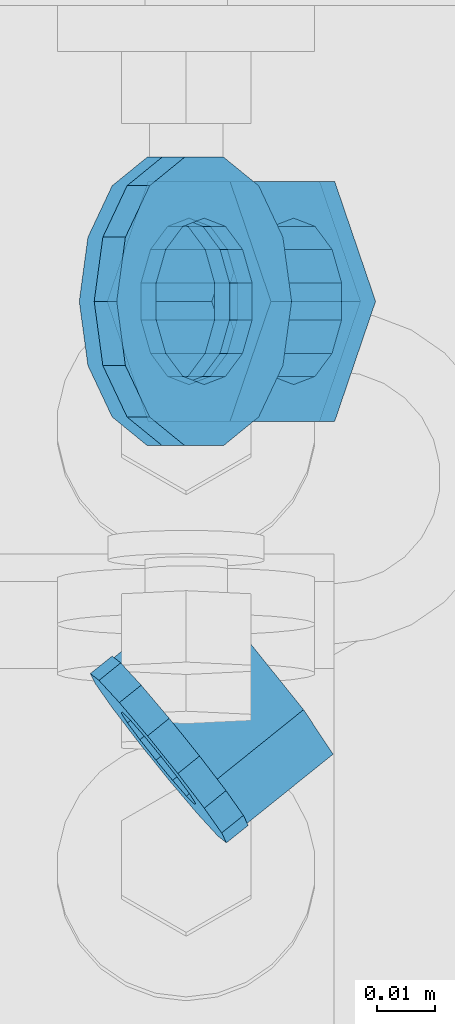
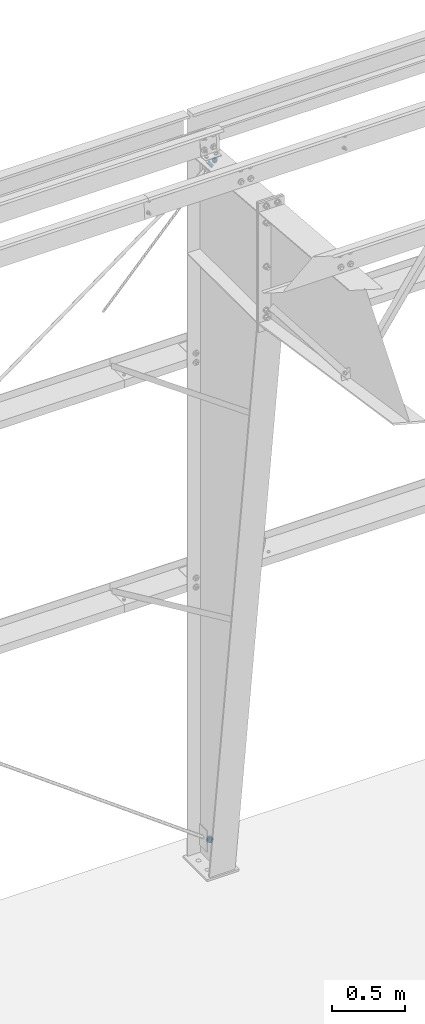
# One storey, part 39 of 185: 4 members, 2 beams, 6 elements without a shape of their own.
"""IFC2X3 building model written with IfcOpenShell, lengths in millimetres."""

from ifc_helpers import new_model, si_unit, frame, origin_with_axes, place, context, subcontext, project, spatial, polyline, outline, extrude, material, type_object, element, aggregate, save


model = new_model("IFC2X3")

# Units and contexts
model_context = context("Model", 3, precision=1e-05, world=origin_with_axes())
body_context = subcontext(model_context, "Body", "Model", "MODEL_VIEW")
ifc_project = project(units=[si_unit("LENGTHUNIT", "METRE", prefix="MILLI"), si_unit("AREAUNIT", "SQUARE_METRE"), si_unit("VOLUMEUNIT", "CUBIC_METRE"), si_unit("MASSUNIT", "GRAM", prefix="KILO"), si_unit("TIMEUNIT", "SECOND"), si_unit("PLANEANGLEUNIT", "RADIAN"), si_unit("SOLIDANGLEUNIT", "STERADIAN"), si_unit("THERMODYNAMICTEMPERATUREUNIT", "DEGREE_CELSIUS"), si_unit("LUMINOUSINTENSITYUNIT", "LUMEN")], contexts=[model_context])

# Site, building, storey
site_placement = place(None, origin_with_axes())
site = spatial("IfcSite", under=ifc_project, at=site_placement, Name="Undefined", CompositionType="ELEMENT")
building_placement = place(site_placement, origin_with_axes())
building = spatial("IfcBuilding", under=site, at=building_placement, Name="Undefined", CompositionType="ELEMENT")
storey_placement = place(building_placement, origin_with_axes())
storey = spatial("IfcBuildingStorey", under=building, at=storey_placement, Name="Undefined", CompositionType="ELEMENT", Elevation=0.0)

# Assembly, member
assembly_1_placement = place(storey_placement, origin_with_axes())
assembly_1 = element("IfcElementAssembly", 1, at=assembly_1_placement, inside=storey, Name="Steel Assembly", AssemblyPlace="NOTDEFINED", PredefinedType="RIGID_FRAME")
ifc_material = material(Name="STEEL/55")
member_type_1 = type_object("IfcMemberType", Name="1_HEAVY_HEX_NUT", PredefinedType="NOTDEFINED")
member_1_placement = place(assembly_1_placement, frame((14897.6197651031, 31742.1260000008, 140.133583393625), z_axis=(8.1869000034e-05, 0.999999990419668, 0.00011161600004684), x_axis=(0.806747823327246, 0.0, -0.590895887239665)))
member_1 = element("IfcMember", 2, at=member_1_placement, type_object=member_type_1, material=ifc_material, Name="1 H HEX NUT A563", ObjectType="1_HEAVY_HEX_NUT", context=body_context, shape_type="SweptSolid", body=[
    extrude(outline(polyline([(-11.909999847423, 20.620000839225), (11.9099998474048, 20.6200008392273), (23.8099994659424, -4.9453774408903e-12), (11.9099998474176, -20.6200008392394), (-11.9099998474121, -20.6200008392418), (-23.8099994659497, -9.49285094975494e-12), (-11.909999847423, 20.620000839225)]), holes=[polyline([(11.1723718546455, -8.90966924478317), (13.9317198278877, -3.17982413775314), (13.9317198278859, 3.17982413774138), (11.17237185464, 8.9096692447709), (6.20019861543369, 12.8748450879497), (-5.45696821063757e-12, 14.2899999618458), (-6.20019861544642, 12.8748450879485), (-11.1723718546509, 8.90966924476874), (-13.931719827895, 3.17982413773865), (-13.9317198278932, -3.17982413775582), (-11.1723718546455, -8.90966924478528), (-6.20019861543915, -12.8748450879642), (0.0, -14.2899999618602), (6.20019861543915, -12.874845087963), (11.1723718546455, -8.90966924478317)])]), frame((19.0500000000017, 0.0, 2.58175642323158e-19), z_axis=(-1.0, 0.0, 0.0), x_axis=(0.0, -1.0, 0.0)), (0.0, 0.0, 1.0), 19.1),
])
aggregate(assembly_1, [member_1])

assembly_2_placement = place(storey_placement, origin_with_axes())
assembly_2 = element("IfcElementAssembly", 3, at=assembly_2_placement, inside=storey, Name="Steel Assembly", AssemblyPlace="NOTDEFINED", PredefinedType="RIGID_FRAME")
member_2_placement = place(assembly_2_placement, frame((14900.1811885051, 31742.1260000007, 5779.49958721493), z_axis=(8.17930000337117e-05, -0.999999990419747, -0.000111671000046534), x_axis=(0.806747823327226, 0.0, 0.590895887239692)))
member_2 = element("IfcMember", 4, at=member_2_placement, type_object=member_type_1, material=ifc_material, Name="1 H HEX NUT A563", ObjectType="1_HEAVY_HEX_NUT", context=body_context, shape_type="SweptSolid", body=[
    extrude(outline(polyline([(-11.909999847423, 20.620000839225), (11.9099998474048, 20.6200008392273), (23.8099994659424, -4.9453774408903e-12), (11.9099998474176, -20.6200008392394), (-11.9099998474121, -20.6200008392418), (-23.8099994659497, -9.49285094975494e-12), (-11.909999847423, 20.620000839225)]), holes=[polyline([(11.1723718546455, -8.90966924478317), (13.9317198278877, -3.17982413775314), (13.9317198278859, 3.17982413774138), (11.17237185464, 8.9096692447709), (6.20019861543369, 12.8748450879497), (-5.45696821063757e-12, 14.2899999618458), (-6.20019861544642, 12.8748450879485), (-11.1723718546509, 8.90966924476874), (-13.931719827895, 3.17982413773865), (-13.9317198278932, -3.17982413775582), (-11.1723718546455, -8.90966924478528), (-6.20019861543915, -12.8748450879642), (0.0, -14.2899999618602), (6.20019861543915, -12.874845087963), (11.1723718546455, -8.90966924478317)])]), frame((19.0500000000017, 0.0, 2.58175642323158e-19), z_axis=(-1.0, 0.0, 0.0), x_axis=(0.0, -1.0, 0.0)), (0.0, 0.0, 1.0), 19.1),
])
aggregate(assembly_2, [member_2])

assembly_3_placement = place(storey_placement, origin_with_axes())
assembly_3 = element("IfcElementAssembly", 5, at=assembly_3_placement, inside=storey, Name="Steel Assembly", AssemblyPlace="NOTDEFINED", PredefinedType="RIGID_FRAME")
member_type_2 = type_object("IfcMemberType", Name="1_WASHER", PredefinedType="NOTDEFINED")
member_3_placement = place(assembly_3_placement, frame((14893.7776285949, 31742.1260000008, 142.947725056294), z_axis=(8.1869000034e-05, 0.999999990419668, 0.00011161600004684), x_axis=(0.806747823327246, 0.0, -0.590895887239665)))
member_3 = element("IfcMember", 6, at=member_3_placement, type_object=member_type_2, material=ifc_material, Name="1 WASHER F844", ObjectType="1_WASHER", context=body_context, shape_type="SweptSolid", body=[
    extrude(outline(polyline([(15.8366407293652, 19.8585193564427), (22.8846089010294, 11.020646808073), (25.3999996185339, 6.25277607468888e-13), (22.8846089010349, -11.0206468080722), (15.8366407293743, -19.8585193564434), (5.6520316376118, -24.7631685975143), (-5.65203163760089, -24.7631685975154), (-15.8366407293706, -19.8585193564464), (-22.8846089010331, -11.0206468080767), (-25.3999996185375, -4.32009983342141e-12), (-22.8846089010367, 11.0206468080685), (-15.8366407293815, 19.8585193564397), (-5.65203163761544, 24.7631685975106), (5.65203163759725, 24.7631685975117), (15.8366407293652, 19.8585193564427)]), holes=[polyline([(11.1723718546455, -8.90966924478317), (13.9317198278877, -3.17982413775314), (13.9317198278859, 3.17982413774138), (11.17237185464, 8.9096692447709), (6.20019861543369, 12.8748450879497), (-5.45696821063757e-12, 14.2899999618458), (-6.20019861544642, 12.8748450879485), (-11.1723718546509, 8.90966924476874), (-13.931719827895, 3.17982413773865), (-13.9317198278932, -3.17982413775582), (-11.1723718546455, -8.90966924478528), (-6.20019861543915, -12.8748450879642), (0.0, -14.2899999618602), (6.20019861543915, -12.874845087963), (11.1723718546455, -8.90966924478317)])]), frame((4.76250000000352, 2.6437185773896e-16, 5.6843418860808e-14), z_axis=(-1.0, 0.0, 0.0), x_axis=(0.0, -1.0, 0.0)), (0.0, 0.0, 1.0), 4.8),
])
aggregate(assembly_3, [member_3])

assembly_4_placement = place(storey_placement, origin_with_axes())
assembly_4 = element("IfcElementAssembly", 7, at=assembly_4_placement, inside=storey, Name="Steel Assembly", AssemblyPlace="NOTDEFINED", PredefinedType="RIGID_FRAME")
member_4_placement = place(assembly_4_placement, frame((14896.3390519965, 31742.1260000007, 5776.68544555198), z_axis=(8.17930000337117e-05, -0.999999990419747, -0.000111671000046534), x_axis=(0.806747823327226, 0.0, 0.590895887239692)))
member_4 = element("IfcMember", 8, at=member_4_placement, type_object=member_type_2, material=ifc_material, Name="1 WASHER F844", ObjectType="1_WASHER", context=body_context, shape_type="SweptSolid", body=[
    extrude(outline(polyline([(15.8366407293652, 19.8585193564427), (22.8846089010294, 11.020646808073), (25.3999996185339, 6.25277607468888e-13), (22.8846089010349, -11.0206468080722), (15.8366407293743, -19.8585193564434), (5.6520316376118, -24.7631685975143), (-5.65203163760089, -24.7631685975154), (-15.8366407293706, -19.8585193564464), (-22.8846089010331, -11.0206468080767), (-25.3999996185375, -4.32009983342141e-12), (-22.8846089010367, 11.0206468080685), (-15.8366407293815, 19.8585193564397), (-5.65203163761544, 24.7631685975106), (5.65203163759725, 24.7631685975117), (15.8366407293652, 19.8585193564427)]), holes=[polyline([(11.1723718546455, -8.90966924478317), (13.9317198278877, -3.17982413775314), (13.9317198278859, 3.17982413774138), (11.17237185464, 8.9096692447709), (6.20019861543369, 12.8748450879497), (-5.45696821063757e-12, 14.2899999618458), (-6.20019861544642, 12.8748450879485), (-11.1723718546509, 8.90966924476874), (-13.931719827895, 3.17982413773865), (-13.9317198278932, -3.17982413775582), (-11.1723718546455, -8.90966924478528), (-6.20019861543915, -12.8748450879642), (0.0, -14.2899999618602), (6.20019861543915, -12.874845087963), (11.1723718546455, -8.90966924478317)])]), frame((4.76250000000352, 2.6437185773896e-16, 5.6843418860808e-14), z_axis=(-1.0, 0.0, 0.0), x_axis=(0.0, -1.0, 0.0)), (0.0, 0.0, 1.0), 4.8),
])
aggregate(assembly_4, [member_4])

# Assembly, beam
assembly_5_placement = place(storey_placement, origin_with_axes())
assembly_5 = element("IfcElementAssembly", 9, at=assembly_5_placement, inside=storey, Name="Steel Assembly", AssemblyPlace="NOTDEFINED", PredefinedType="RIGID_FRAME")
beam_type_1 = type_object("IfcBeamType", Name="3/4_HEAVY_HEX_NUT", PredefinedType="NOTDEFINED")
beam_1_placement = place(assembly_5_placement, frame((14896.0641884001, 31666.6891512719, 5861.25106499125), z_axis=(0.0402997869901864, 0.0331015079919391, 0.998639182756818), x_axis=(0.778250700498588, 0.625784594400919, -0.0521487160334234)))
beam_1 = element("IfcBeam", 10, at=beam_1_placement, type_object=beam_type_1, material=ifc_material, Name="3/4 H HEX NUT A563", ObjectType="3/4_HEAVY_HEX_NUT", context=body_context, shape_type="SweptSolid", body=[
    extrude(outline(polyline([(9.13000011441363, -15.810000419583), (-9.13000011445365, -15.810000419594), (-18.2600002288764, 1.54614099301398e-11), (-9.13000011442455, 15.8100004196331), (9.13000011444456, 15.8100004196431), (18.2600002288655, 3.36513039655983e-11), (9.13000011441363, -15.810000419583)]), holes=[polyline([(-8.06850066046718, 6.43441456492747), (-10.061255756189, 2.29641597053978), (-10.0612557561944, -2.29641597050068), (-8.06850066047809, -6.43441456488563), (-4.47768005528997, -9.29799844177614), (-1.09139364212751e-11, -10.3199996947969), (4.47768005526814, -9.29799844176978), (8.0685006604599, -6.43441456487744), (10.0612557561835, -2.29641597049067), (10.0612557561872, 2.2964159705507), (8.06850066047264, 6.43441456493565), (4.47768005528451, 9.29799844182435), (7.27595761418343e-12, 10.319999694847), (-4.47768005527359, 9.2979984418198), (-8.06850066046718, 6.43441456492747)])]), frame((19.0500000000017, 0.0, 2.58175642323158e-19), z_axis=(-1.0, 0.0, 0.0), x_axis=(0.0, -1.0, 0.0)), (0.0, 0.0, 1.0), 19.1),
])
aggregate(assembly_5, [beam_1])

assembly_6_placement = place(storey_placement, origin_with_axes())
assembly_6 = element("IfcElementAssembly", 11, at=assembly_6_placement, inside=storey, Name="Steel Assembly", AssemblyPlace="NOTDEFINED", PredefinedType="RIGID_FRAME")
beam_type_2 = type_object("IfcBeamType", Name="3/4_WASHER", PredefinedType="NOTDEFINED")
beam_2_placement = place(assembly_6_placement, frame((14892.357769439, 31663.7088521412, 5861.49942325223), z_axis=(0.0402997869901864, 0.0331015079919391, 0.998639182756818), x_axis=(0.778250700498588, 0.625784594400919, -0.0521487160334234)))
beam_2 = element("IfcBeam", 12, at=beam_2_placement, type_object=beam_type_2, material=ifc_material, Name="3/4 WASHER F844", ObjectType="3/4_WASHER", context=body_context, shape_type="SweptSolid", body=[
    extrude(outline(polyline([(-11.6280845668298, -14.5811568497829), (-16.8030690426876, -8.09193156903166), (-18.649999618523, -4.54747350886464e-12), (-16.8030690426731, 8.09193156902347), (-11.6280845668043, 14.5811568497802), (-4.15001533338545, 18.1824051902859), (4.15001533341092, 18.1824051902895), (11.628084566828, 14.5811568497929), (16.8030690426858, 8.09193156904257), (18.6499996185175, 1.45519152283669e-11), (16.8030690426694, -8.09193156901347), (11.6280845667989, -14.5811568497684), (4.15001533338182, -18.182405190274), (-4.15001533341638, -18.1824051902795), (-11.6280845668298, -14.5811568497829)]), holes=[polyline([(-8.06850066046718, 6.43441456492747), (-10.061255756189, 2.29641597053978), (-10.0612557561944, -2.29641597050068), (-8.06850066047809, -6.43441456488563), (-4.47768005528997, -9.29799844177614), (-1.09139364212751e-11, -10.3199996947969), (4.47768005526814, -9.29799844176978), (8.0685006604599, -6.43441456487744), (10.0612557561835, -2.29641597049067), (10.0612557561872, 2.2964159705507), (8.06850066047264, 6.43441456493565), (4.47768005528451, 9.29799844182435), (7.27595761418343e-12, 10.319999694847), (-4.47768005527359, 9.2979984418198), (-8.06850066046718, 6.43441456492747)])]), frame((4.76250000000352, 2.6437185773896e-16, 5.6843418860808e-14), z_axis=(-1.0, 0.0, 0.0), x_axis=(0.0, -1.0, 0.0)), (0.0, 0.0, 1.0), 4.8),
])
aggregate(assembly_6, [beam_2])

save(model, "model.ifc")
